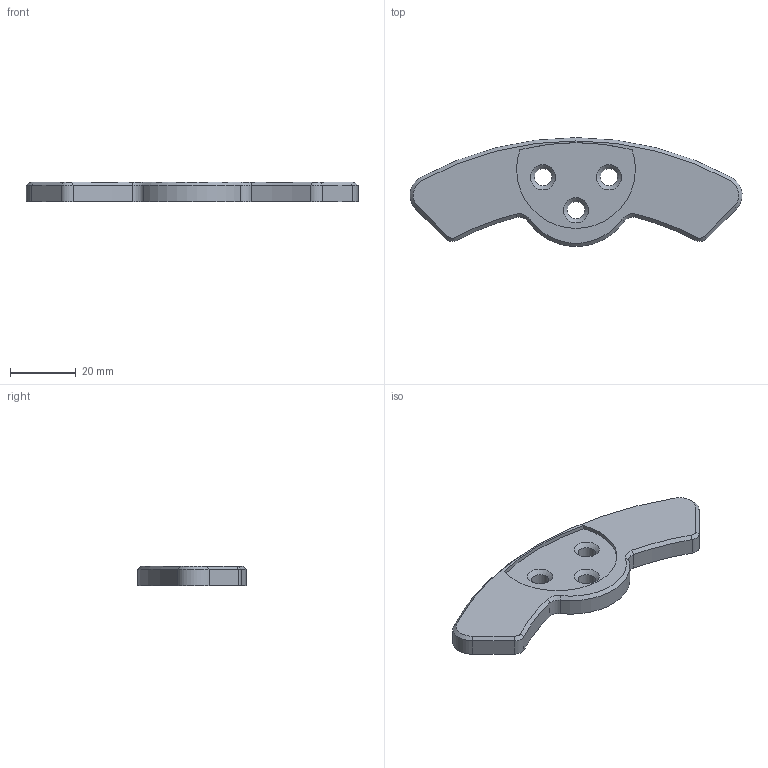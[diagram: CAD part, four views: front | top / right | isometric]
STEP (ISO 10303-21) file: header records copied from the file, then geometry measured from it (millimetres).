
FILE_DESCRIPTION(/* description */ ('Alibre Inc.'),/* implementation_level */ '2;1');
FILE_NAME(/* name */ 'export0',/* time_stamp */ '2010-06-04T22:57:47+02:00',/* author */ (''),/* organization */ (''),/* preprocessor_version */ 'ST-DEVELOPER v10',/* originating_system */ 'Alibre',/* authorisation */ '');
FILE_SCHEMA (('ALIBRE_SCHEMA','CONFIG_CONTROL_DESIGN'));
Length unit declared in the file: centimetre
Products named in the file (1): ID_1
Bounding box: 100.65 x 32.93 x 6 mm (x, y, z)
Volume: 12724.6 mm3; surface area: 6172.6 mm2
Topology: 1 solids, 1 shells, 35 faces, 84 edges, 52 vertices
Faces by surface type: cylinder 15, cone 13, plane 7
Full cylindrical faces by diameter (mm): 5.2 x3
Entity records: 5629 total; most frequent: CARTESIAN_POINT 976, REFERENCEDEPENDENTUV 428, DIRECTION 341, CONSTRAINTPAIRUV 284, REFERENCEPOINTUV 226, ENTITYHEADERPROPERTIES 194, TEXTBUNDLE 174, VECTOR 165
